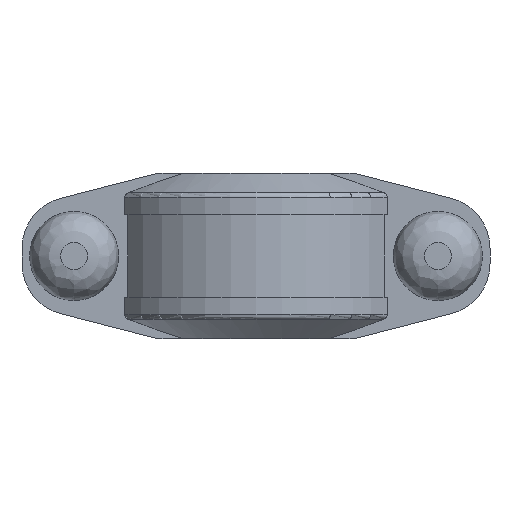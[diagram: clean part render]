
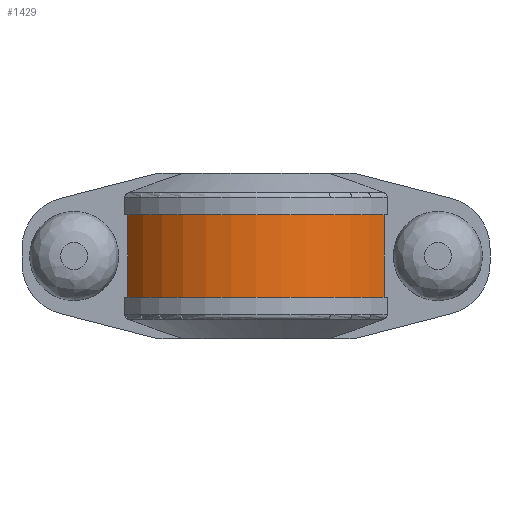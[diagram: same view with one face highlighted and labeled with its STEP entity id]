
A CAD part, front view. The second image highlights one B-rep face of the part: STEP entity #1429.
In plain terms, the highlighted cylindrical face has radius 46.863 mm (diameter 93.726 mm), a partial arc.
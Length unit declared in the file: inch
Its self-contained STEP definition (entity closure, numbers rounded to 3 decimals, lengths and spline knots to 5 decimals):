
#102=CIRCLE('',#1577,1.845);
#103=CIRCLE('',#1578,1.845);
#130=CYLINDRICAL_SURFACE('',#1576,1.845);
#194=FACE_OUTER_BOUND('',#283,.T.);
#283=EDGE_LOOP('',(#1169,#1170,#1171,#1172));
#339=LINE('',#2135,#454);
#413=LINE('',#2471,#528);
#454=VECTOR('',#1725,0.3937);
#528=VECTOR('',#1919,0.3937);
#575=VERTEX_POINT('',#2132);
#576=VERTEX_POINT('',#2134);
#657=VERTEX_POINT('',#2468);
#658=VERTEX_POINT('',#2470);
#719=EDGE_CURVE('',#576,#575,#339,.T.);
#833=EDGE_CURVE('',#658,#657,#413,.T.);
#841=EDGE_CURVE('',#575,#658,#102,.T.);
#842=EDGE_CURVE('',#576,#657,#103,.T.);
#1169=ORIENTED_EDGE('',*,*,#719,.T.);
#1170=ORIENTED_EDGE('',*,*,#841,.T.);
#1171=ORIENTED_EDGE('',*,*,#833,.T.);
#1172=ORIENTED_EDGE('',*,*,#842,.F.);
#1429=ADVANCED_FACE('',(#194),#130,.T.);
#1576=AXIS2_PLACEMENT_3D('',#2493,#1932,#1933);
#1577=AXIS2_PLACEMENT_3D('',#2494,#1934,#1935);
#1578=AXIS2_PLACEMENT_3D('',#2495,#1936,#1937);
#1725=DIRECTION('',(0.,0.,-1.));
#1919=DIRECTION('',(0.,0.,1.));
#1932=DIRECTION('center_axis',(0.,0.,1.));
#1933=DIRECTION('ref_axis',(-1.,0.,0.));
#1934=DIRECTION('center_axis',(0.,0.,1.));
#1935=DIRECTION('ref_axis',(-1.,0.,0.));
#1936=DIRECTION('center_axis',(0.,0.,1.));
#1937=DIRECTION('ref_axis',(-1.,0.,0.));
#2132=CARTESIAN_POINT('',(-1.55049,-1.,-0.5));
#2134=CARTESIAN_POINT('',(-1.55049,-1.,0.5));
#2135=CARTESIAN_POINT('',(-1.55049,-1.,0.));
#2468=CARTESIAN_POINT('',(1.55049,-1.,0.5));
#2470=CARTESIAN_POINT('',(1.55049,-1.,-0.5));
#2471=CARTESIAN_POINT('',(1.55049,-1.,0.));
#2493=CARTESIAN_POINT('Origin',(0.,0.,
0.));
#2494=CARTESIAN_POINT('Origin',(0.,0.,
-0.5));
#2495=CARTESIAN_POINT('Origin',(0.,0.,
0.5));
